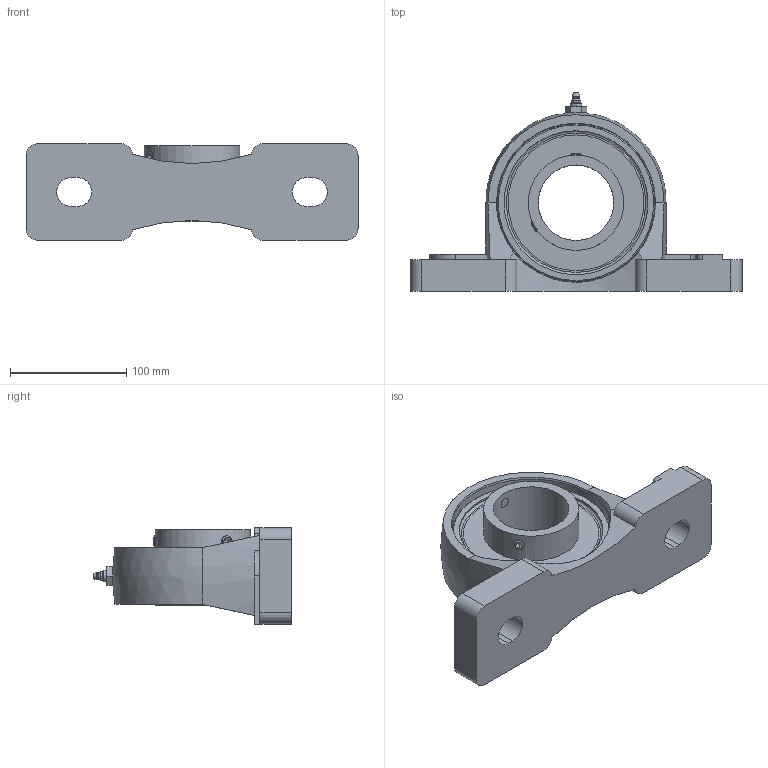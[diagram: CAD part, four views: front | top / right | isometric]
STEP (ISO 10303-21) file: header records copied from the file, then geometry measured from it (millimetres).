
FILE_DESCRIPTION((''),'2;1');
FILE_NAME('\\Ts-tgl068\J-Cad-D-BASE\00.3DCADデータ作成フォルダ\01.ピロー形\UCEP200\UCEP213.stp','2014-04-18T09:42:35',('btec_1106_2'),(''),'Autodesk Inventor 2012','Autodesk Inventor 2012','');
FILE_SCHEMA(('AUTOMOTIVE_DESIGN { 1 0 10303 214 1 1 1 1 }'));
Length unit declared in the file: millimetre
Products named in the file (7): UCEP200; EP213; AU110-1; EC213; GU1; シリーズUC [番手=213 ul]; M10X1
Assembly tree (6 placements, depth 2):
  UCEP200
    EP213
    AU110-1
    EC213
    GU1
    シリーズUC [番手=213 ul]
    M10X1
Bounding box: 286 x 171.09 x 83 mm (x, y, z)
Volume: 1071307.5 mm3; surface area: 185137.8 mm2
Topology: 6 solids, 6 shells, 169 faces, 417 edges, 268 vertices
Faces by surface type: plane 87, cylinder 48, cone 21, torus 8, sphere 4, bspline 1
Full cylindrical faces by diameter (mm): 2 x1, 5 x1, 5.359 x1, 6.35 x1, 8.376 x2, 10 x3, 65 x1, 82.1 x2, 124 x2, 136 x2
Entity records: 5251 total; most frequent: CARTESIAN_POINT 1184, DIRECTION 824, ORIENTED_EDGE 732, EDGE_CURVE 366, AXIS2_PLACEMENT_3D 323, VERTEX_POINT 254, EDGE_LOOP 230, VECTOR 178
